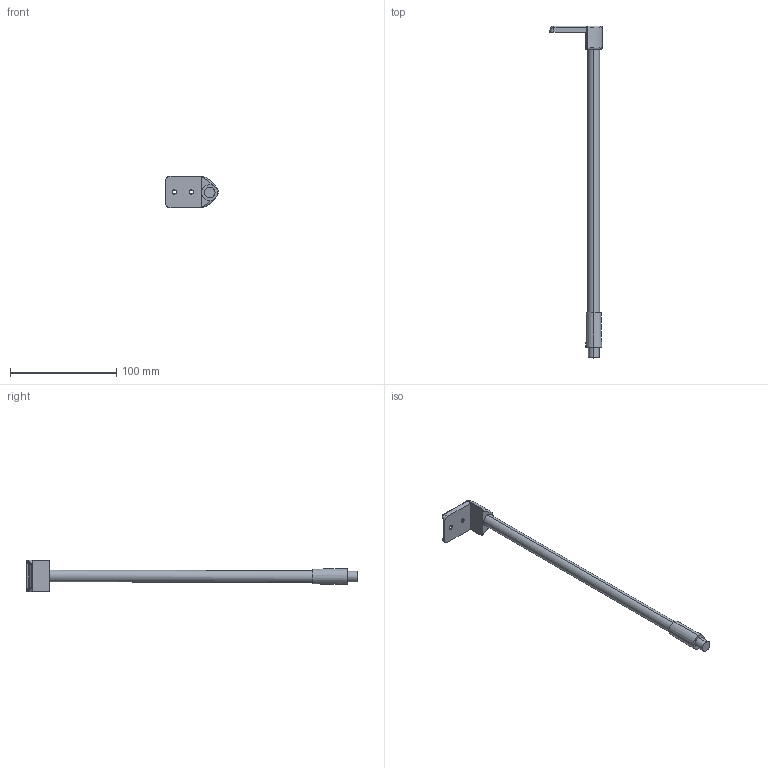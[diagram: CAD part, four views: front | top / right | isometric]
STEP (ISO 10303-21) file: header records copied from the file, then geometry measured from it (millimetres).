
FILE_DESCRIPTION (( 'STEP AP214' ), '1' );
FILE_NAME ('_2S_RUL_7107_NL300_RE.step', '2010-06-29T14:08:17', ( 'grass' ), ( '' ), 'SwSTEP 2.0', 'SolidWorks 2009', '' );
FILE_SCHEMA (( 'AUTOMOTIVE_DESIGN' ));
Length unit declared in the file: millimetre
Products named in the file (1): _2S_RUL_7107_NL300_RE
Bounding box: 49.5 x 313 x 30 mm (x, y, z)
Volume: 39987.8 mm3; surface area: 15428.4 mm2
Topology: 1 solids, 1 shells, 89 faces, 203 edges, 118 vertices
Faces by surface type: cylinder 32, plane 17, torus 16, bspline 16, cone 6, sphere 2
Entity records: 4566 total; most frequent: CARTESIAN_POINT 2608, DIRECTION 411, ORIENTED_EDGE 402, EDGE_CURVE 201, AXIS2_PLACEMENT_3D 172, VERTEX_POINT 118, CIRCLE 98, EDGE_LOOP 97
